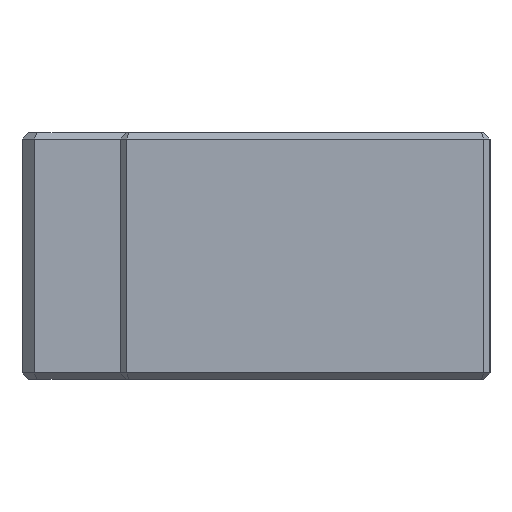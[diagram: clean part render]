
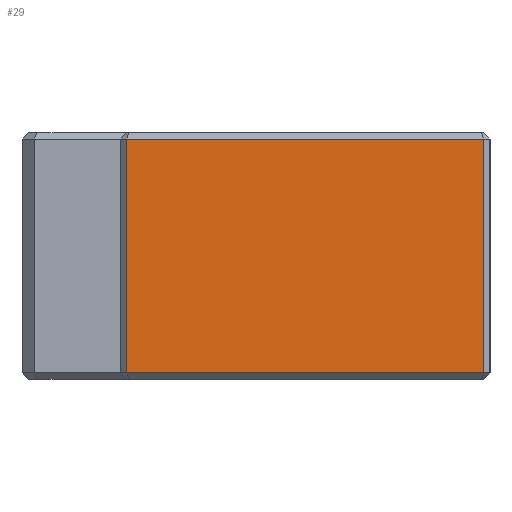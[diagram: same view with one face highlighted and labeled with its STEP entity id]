
A CAD part, left-side view. The second image highlights one B-rep face of the part: STEP entity #29.
In plain terms, the highlighted planar face has unit normal (-1, 0, 0).
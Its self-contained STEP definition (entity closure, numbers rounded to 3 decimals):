
#29 = ADVANCED_FACE ( 'NONE', ( #1801 ), #1800, .F. ) ;
#30 = EDGE_LOOP ( 'NONE', ( #31, #35, #420, #513 ) ) ;
#31 = ORIENTED_EDGE ( 'NONE', *, *, #32, .T. ) ;
#32 = EDGE_CURVE ( 'NONE', #33, #34, #1769, .T. ) ;
#33 = VERTEX_POINT ( 'NONE', #1786 ) ;
#34 = VERTEX_POINT ( 'NONE', #1785 ) ;
#35 = ORIENTED_EDGE ( 'NONE', *, *, #36, .T. ) ;
#36 = EDGE_CURVE ( 'NONE', #34, #419, #1784, .T. ) ;
#419 = VERTEX_POINT ( 'NONE', #4893 ) ;
#420 = ORIENTED_EDGE ( 'NONE', *, *, #421, .T. ) ;
#421 = EDGE_CURVE ( 'NONE', #419, #422, #4892, .T. ) ;
#422 = VERTEX_POINT ( 'NONE', #4888 ) ;
#513 = ORIENTED_EDGE ( 'NONE', *, *, #514, .T. ) ;
#514 = EDGE_CURVE ( 'NONE', #422, #33, #2503, .T. ) ;
#1767 = DIRECTION ( 'NONE',  ( 0., 0., -1. ) ) ;
#1768 = CARTESIAN_POINT ( 'NONE',  ( 0., 29.5, 20. ) ) ;
#1769 = LINE ( 'NONE', #1768, #1787 ) ;
#1770 = DIRECTION ( 'NONE',  ( 0., 0., -1. ) ) ;
#1771 = DIRECTION ( 'NONE',  ( 1., 0., 0. ) ) ;
#1772 = CARTESIAN_POINT ( 'NONE',  ( 0., 0., 20. ) ) ;
#1773 = AXIS2_PLACEMENT_3D ( 'NONE', #1772, #1771, #1770 ) ;
#1781 = DIRECTION ( 'NONE',  ( 0., -1., 0. ) ) ;
#1782 = VECTOR ( 'NONE', #1781, 1000. ) ;
#1783 = CARTESIAN_POINT ( 'NONE',  ( 0., 0.5, 0.5 ) ) ;
#1784 = LINE ( 'NONE', #1783, #1782 ) ;
#1785 = CARTESIAN_POINT ( 'NONE',  ( 0., 29.5, 0.5 ) ) ;
#1786 = CARTESIAN_POINT ( 'NONE',  ( 0., 29.5, 19.5 ) ) ;
#1787 = VECTOR ( 'NONE', #1767, 1000. ) ;
#1800 = PLANE ( 'NONE',  #1773 ) ;
#1801 = FACE_OUTER_BOUND ( 'NONE', #30, .T. ) ;
#2502 = CARTESIAN_POINT ( 'NONE',  ( 0., 0., 19.5 ) ) ;
#2503 = LINE ( 'NONE', #2502, #2522 ) ;
#2521 = DIRECTION ( 'NONE',  ( 0., 1., 0. ) ) ;
#2522 = VECTOR ( 'NONE', #2521, 1000. ) ;
#4888 = CARTESIAN_POINT ( 'NONE',  ( 0., 0.5, 19.5 ) ) ;
#4889 = DIRECTION ( 'NONE',  ( 0., 0., 1. ) ) ;
#4890 = VECTOR ( 'NONE', #4889, 1000. ) ;
#4891 = CARTESIAN_POINT ( 'NONE',  ( 0., 0.5, 20. ) ) ;
#4892 = LINE ( 'NONE', #4891, #4890 ) ;
#4893 = CARTESIAN_POINT ( 'NONE',  ( 0., 0.5, 0.5 ) ) ;
